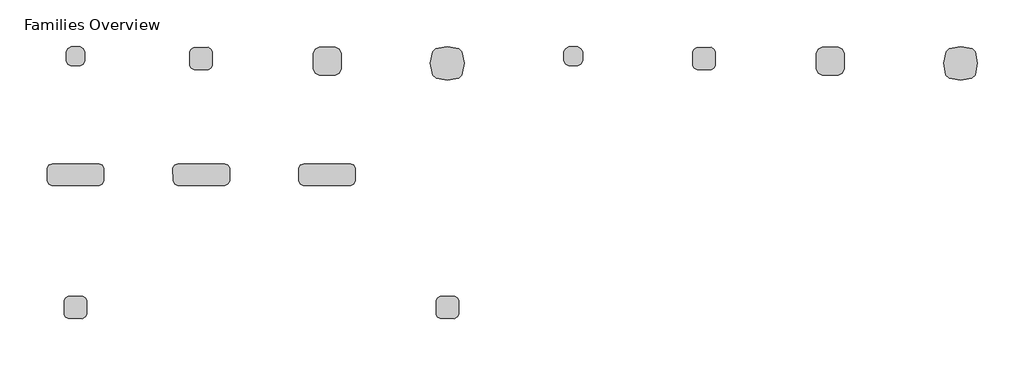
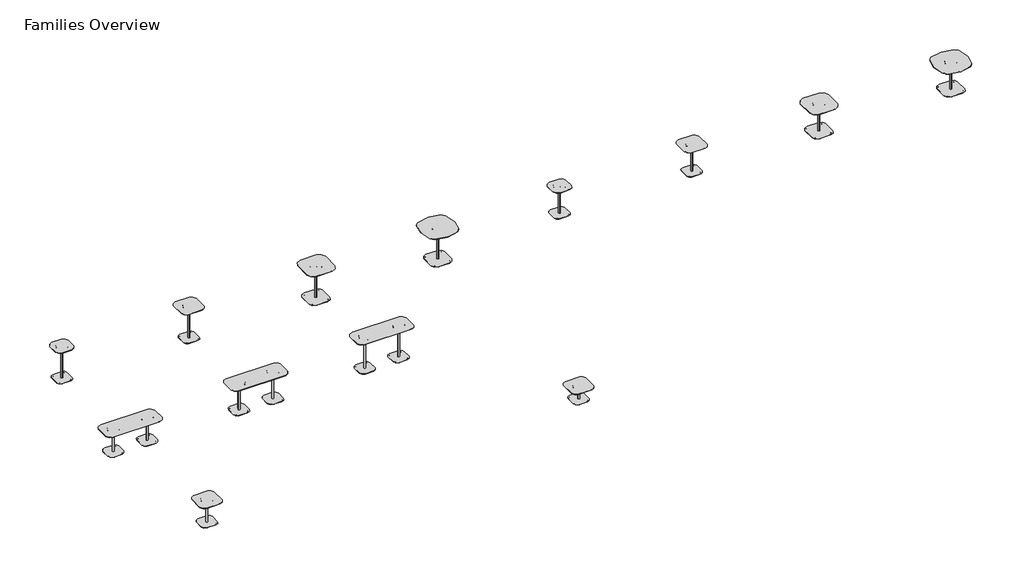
# One storey, incomplete: 13 furniture elements.
"""IFC4 building model written with IfcOpenShell, lengths in millimetres."""

from ifc_helpers import new_model, si_unit, origin, place, context, project, spatial, transform, mapped, element, save
from components import furniture_30h_0e2ea376, furniture_36h_5759447a, furniture_42h_85d60476, bar_height_24w_ab3b2975, bar_height_30w_13286742, bar_height_36w_06ba3ad4, bar_height_42w_7da4a0c7, conference_30w_a5f9ca41, counter_height_24w_2820b80f, counter_height_30w_7147adb0, counter_height_36w_5a20dae7, counter_height_42w_893c60b8, occasional_30w_09bacb58

model = new_model("IFC4")

# Units and contexts
model_context = context("Model", 3, world=origin())
ifc_project = project(units=[si_unit("LENGTHUNIT", "METRE", prefix="MILLI")], contexts=[model_context])

# Site, building, storey
site = spatial("IfcSite", under=ifc_project)
building = spatial("IfcBuilding", under=site)
storey = spatial("IfcBuildingStorey", under=building, Name="Families Overview", Elevation=0.0)

# Furniture
placement = place(None, origin())
furniture_30h_shape = furniture_30h_0e2ea376(model_context)
element("IfcFurniture", 1, ObjectType="Steelcase Coalesse - Enea Lottus - Table - Rectangular : 30H", at=placement, inside=storey, context=model_context, shape_type="MappedRepresentation", body=[
    mapped(furniture_30h_shape, transform((-69455.7041168, 11642.0306958, 0.0), x_axis=(1.0, 0.0, 0.0), y_axis=(0.0, 1.0, 0.0), z_axis=(0.0, 0.0, 1.0))),
])
furniture_36h_shape = furniture_36h_5759447a(model_context)
element("IfcFurniture", 2, ObjectType="Steelcase Coalesse - Enea Lottus - Table - Rectangular : 36H", at=placement, inside=storey, context=model_context, shape_type="MappedRepresentation", body=[
    mapped(furniture_36h_shape, transform((-65493.3041168, 11642.0306958, 0.0), x_axis=(1.0, 0.0, 0.0), y_axis=(0.0, 1.0, 0.0), z_axis=(0.0, 0.0, 1.0))),
])
furniture_42h_shape = furniture_42h_85d60476(model_context)
element("IfcFurniture", 3, ObjectType="Steelcase Coalesse - Enea Lottus - Table - Rectangular : 42H", at=placement, inside=storey, context=model_context, shape_type="MappedRepresentation", body=[
    mapped(furniture_42h_shape, transform((-61530.9041168, 11642.0306958, 0.0), x_axis=(1.0, 0.0, 0.0), y_axis=(0.0, 1.0, 0.0), z_axis=(0.0, 0.0, 1.0))),
])
bar_height_24w_shape = bar_height_24w_ab3b2975(model_context)
element("IfcFurniture", 4, ObjectType="Steelcase Coalesse - Enea Lottus - Table - Cafe : Bar Height - 24W", at=placement, inside=storey, context=model_context, shape_type="MappedRepresentation", body=[
    mapped(bar_height_24w_shape, transform((-69760.5041168, 15681.0454031, 0.0), x_axis=(1.0, 0.0, 0.0), y_axis=(0.0, 1.0, 0.0), z_axis=(0.0, 0.0, 1.0))),
])
bar_height_30w_shape = bar_height_30w_13286742(model_context)
element("IfcFurniture", 5, ObjectType="Steelcase Coalesse - Enea Lottus - Table - Cafe : Bar Height - 30W", at=placement, inside=storey, context=model_context, shape_type="MappedRepresentation", body=[
    mapped(bar_height_30w_shape, transform((-65878.6221168, 15681.0454031, 0.0), x_axis=(1.0, 0.0, 0.0), y_axis=(0.0, 1.0, 0.0), z_axis=(0.0, 0.0, 1.0))),
])
bar_height_36w_shape = bar_height_36w_06ba3ad4(model_context)
element("IfcFurniture", 6, ObjectType="Steelcase Coalesse - Enea Lottus - Table - Cafe : Bar Height - 36W", at=placement, inside=storey, context=model_context, shape_type="MappedRepresentation", body=[
    mapped(bar_height_36w_shape, transform((-61992.4221168, 15681.0454031, 0.0), x_axis=(1.0, 0.0, 0.0), y_axis=(0.0, 1.0, 0.0), z_axis=(0.0, 0.0, 1.0))),
])
bar_height_42w_shape = bar_height_42w_7da4a0c7(model_context)
element("IfcFurniture", 7, ObjectType="Steelcase Coalesse - Enea Lottus - Table - Cafe : Bar Height - 42W", at=placement, inside=storey, context=model_context, shape_type="MappedRepresentation", body=[
    mapped(bar_height_42w_shape, transform((-58274.3999395, 15681.0454031, 0.0), x_axis=(1.0, 0.0, 0.0), y_axis=(0.0, 1.0, 0.0), z_axis=(0.0, 0.0, 1.0))),
])
conference_30w_shape = conference_30w_a5f9ca41(model_context)
element("IfcFurniture", 8, ObjectType="Steelcase Coalesse - Enea Lottus - Table - Square : Conference - 30W", at=placement, inside=storey, context=model_context, shape_type="MappedRepresentation", body=[
    mapped(conference_30w_shape, transform((-69993.4221168, 7832.0306958, 0.0), x_axis=(1.0, 0.0, 0.0), y_axis=(0.0, 1.0, 0.0), z_axis=(0.0, 0.0, 1.0))),
])
counter_height_24w_shape = counter_height_24w_2820b80f(model_context)
element("IfcFurniture", 9, ObjectType="Steelcase Coalesse - Enea Lottus - Table - Cafe : Counter Height - 24W", at=placement, inside=storey, context=model_context, shape_type="MappedRepresentation", body=[
    mapped(counter_height_24w_shape, transform((-54079.0819395, 15681.0454031, 0.0), x_axis=(1.0, 0.0, 0.0), y_axis=(0.0, 1.0, 0.0), z_axis=(0.0, 0.0, 1.0))),
])
counter_height_30w_shape = counter_height_30w_7147adb0(model_context)
element("IfcFurniture", 10, ObjectType="Steelcase Coalesse - Enea Lottus - Table - Cafe : Counter Height - 30W", at=placement, inside=storey, context=model_context, shape_type="MappedRepresentation", body=[
    mapped(counter_height_30w_shape, transform((-50029.0221168, 15681.0454031, 0.0), x_axis=(1.0, 0.0, 0.0), y_axis=(0.0, 1.0, 0.0), z_axis=(0.0, 0.0, 1.0))),
])
counter_height_36w_shape = counter_height_36w_5a20dae7(model_context)
element("IfcFurniture", 11, ObjectType="Steelcase Coalesse - Enea Lottus - Table - Cafe : Counter Height - 36W", at=placement, inside=storey, context=model_context, shape_type="MappedRepresentation", body=[
    mapped(counter_height_36w_shape, transform((-46142.9915716, 15681.0454031, 0.0), x_axis=(1.0, 0.0, 0.0), y_axis=(0.0, 1.0, 0.0), z_axis=(0.0, 0.0, 1.0))),
])
counter_height_42w_shape = counter_height_42w_893c60b8(model_context)
element("IfcFurniture", 12, ObjectType="Steelcase Coalesse - Enea Lottus - Table - Cafe : Counter Height - 42W", at=placement, inside=storey, context=model_context, shape_type="MappedRepresentation", body=[
    mapped(counter_height_42w_shape, transform((-42104.3915716, 15681.0454031, 0.0), x_axis=(1.0, 0.0, 0.0), y_axis=(0.0, 1.0, 0.0), z_axis=(0.0, 0.0, 1.0))),
])
occasional_30w_shape = occasional_30w_09bacb58(model_context)
element("IfcFurniture", 13, ObjectType="Steelcase Coalesse - Enea Lottus - Table - Square : Occasional - 30W", at=placement, inside=storey, context=model_context, shape_type="MappedRepresentation", body=[
    mapped(occasional_30w_shape, transform((-58274.3999395, 7832.0306958, 0.0), x_axis=(1.0, 0.0, 0.0), y_axis=(0.0, 1.0, 0.0), z_axis=(0.0, 0.0, 1.0))),
])

save(model, "model.ifc")
